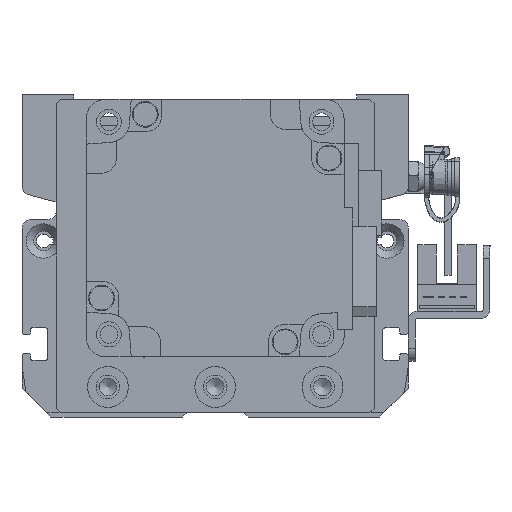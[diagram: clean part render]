
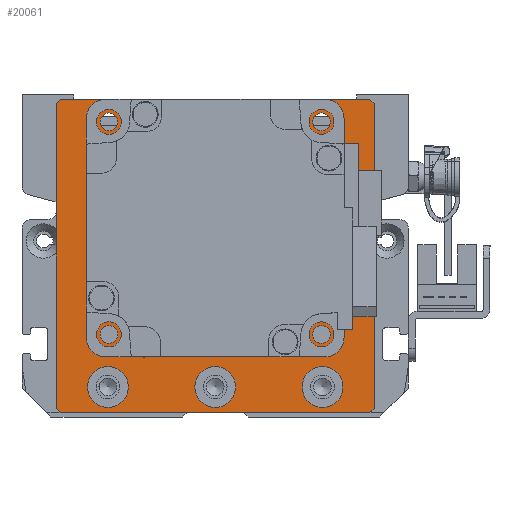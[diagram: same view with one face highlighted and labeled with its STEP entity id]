
A CAD part, left-side view. The second image highlights one B-rep face of the part: STEP entity #20061.
In plain terms, the highlighted planar face has unit normal (-1, 0, 0) as drawn and (0, 0, 1) by its records, which use the part's own axes.
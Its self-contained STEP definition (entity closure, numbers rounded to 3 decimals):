
#648=FACE_BOUND('',#3612,.T.);
#649=FACE_BOUND('',#3613,.T.);
#650=FACE_BOUND('',#3614,.T.);
#651=FACE_BOUND('',#3615,.T.);
#652=FACE_BOUND('',#3616,.T.);
#653=FACE_BOUND('',#3617,.T.);
#654=FACE_BOUND('',#3618,.T.);
#655=FACE_BOUND('',#3619,.T.);
#1053=PLANE('',#22171);
#2356=FACE_OUTER_BOUND('',#3611,.T.);
#3611=EDGE_LOOP('',(#16710,#16711,#16712,#16713,#16714,#16715,#16716,#16717));
#3612=EDGE_LOOP('',(#16718));
#3613=EDGE_LOOP('',(#16719));
#3614=EDGE_LOOP('',(#16720));
#3615=EDGE_LOOP('',(#16721));
#3616=EDGE_LOOP('',(#16722));
#3617=EDGE_LOOP('',(#16723));
#3618=EDGE_LOOP('',(#16724));
#3619=EDGE_LOOP('',(#16725));
#5201=LINE('',#32912,#6920);
#5207=LINE('',#32923,#6926);
#5214=LINE('',#32958,#6933);
#5217=LINE('',#32963,#6936);
#5223=LINE('',#32984,#6942);
#5226=LINE('',#32989,#6945);
#5227=LINE('',#32992,#6946);
#5235=LINE('',#33031,#6954);
#6920=VECTOR('',#26301,10.);
#6926=VECTOR('',#26309,10.);
#6933=VECTOR('',#26340,10.);
#6936=VECTOR('',#26345,10.);
#6942=VECTOR('',#26369,10.);
#6945=VECTOR('',#26374,10.);
#6946=VECTOR('',#26377,10.);
#6954=VECTOR('',#26427,10.);
#8255=CIRCLE('',#22140,4.75);
#8258=CIRCLE('',#22146,4.75);
#8261=CIRCLE('',#22152,4.75);
#8263=CIRCLE('',#22158,2.067);
#8264=CIRCLE('',#22160,2.067);
#8265=CIRCLE('',#22162,2.067);
#8266=CIRCLE('',#22164,2.067);
#8269=CIRCLE('',#22169,25.);
#9750=VERTEX_POINT('',#32910);
#9751=VERTEX_POINT('',#32911);
#9755=VERTEX_POINT('',#32921);
#9771=VERTEX_POINT('',#32957);
#9772=VERTEX_POINT('',#32961);
#9778=VERTEX_POINT('',#32983);
#9779=VERTEX_POINT('',#32987);
#9780=VERTEX_POINT('',#32991);
#9783=VERTEX_POINT('',#33000);
#9786=VERTEX_POINT('',#33011);
#9789=VERTEX_POINT('',#33022);
#9791=VERTEX_POINT('',#33033);
#9792=VERTEX_POINT('',#33037);
#9793=VERTEX_POINT('',#33041);
#9794=VERTEX_POINT('',#33045);
#9797=VERTEX_POINT('',#33054);
#12179=EDGE_CURVE('',#9750,#9751,#5201,.T.);
#12185=EDGE_CURVE('',#9750,#9755,#5207,.T.);
#12202=EDGE_CURVE('',#9771,#9755,#5214,.T.);
#12205=EDGE_CURVE('',#9771,#9772,#5217,.T.);
#12214=EDGE_CURVE('',#9778,#9772,#5223,.T.);
#12217=EDGE_CURVE('',#9778,#9779,#5226,.T.);
#12218=EDGE_CURVE('',#9780,#9779,#5227,.T.);
#12222=EDGE_CURVE('',#9783,#9783,#8255,.T.);
#12227=EDGE_CURVE('',#9786,#9786,#8258,.T.);
#12232=EDGE_CURVE('',#9789,#9789,#8261,.T.);
#12236=EDGE_CURVE('',#9780,#9751,#5235,.T.);
#12237=EDGE_CURVE('',#9791,#9791,#8263,.T.);
#12239=EDGE_CURVE('',#9792,#9792,#8264,.T.);
#12241=EDGE_CURVE('',#9793,#9793,#8265,.T.);
#12243=EDGE_CURVE('',#9794,#9794,#8266,.T.);
#12247=EDGE_CURVE('',#9797,#9797,#8269,.T.);
#16710=ORIENTED_EDGE('',*,*,#12179,.F.);
#16711=ORIENTED_EDGE('',*,*,#12185,.T.);
#16712=ORIENTED_EDGE('',*,*,#12202,.F.);
#16713=ORIENTED_EDGE('',*,*,#12205,.T.);
#16714=ORIENTED_EDGE('',*,*,#12214,.F.);
#16715=ORIENTED_EDGE('',*,*,#12217,.T.);
#16716=ORIENTED_EDGE('',*,*,#12218,.F.);
#16717=ORIENTED_EDGE('',*,*,#12236,.T.);
#16718=ORIENTED_EDGE('',*,*,#12222,.T.);
#16719=ORIENTED_EDGE('',*,*,#12227,.T.);
#16720=ORIENTED_EDGE('',*,*,#12232,.T.);
#16721=ORIENTED_EDGE('',*,*,#12237,.T.);
#16722=ORIENTED_EDGE('',*,*,#12239,.T.);
#16723=ORIENTED_EDGE('',*,*,#12241,.T.);
#16724=ORIENTED_EDGE('',*,*,#12243,.T.);
#16725=ORIENTED_EDGE('',*,*,#12247,.T.);
#20061=ADVANCED_FACE('',(#2356,#648,#649,#650,#651,#652,#653,#654,#655),
#1053,.T.);
#22140=AXIS2_PLACEMENT_3D('',#33001,#26387,#26388);
#22146=AXIS2_PLACEMENT_3D('',#33012,#26401,#26402);
#22152=AXIS2_PLACEMENT_3D('',#33023,#26415,#26416);
#22158=AXIS2_PLACEMENT_3D('',#33034,#26430,#26431);
#22160=AXIS2_PLACEMENT_3D('',#33038,#26435,#26436);
#22162=AXIS2_PLACEMENT_3D('',#33042,#26440,#26441);
#22164=AXIS2_PLACEMENT_3D('',#33046,#26445,#26446);
#22169=AXIS2_PLACEMENT_3D('',#33055,#26456,#26457);
#22171=AXIS2_PLACEMENT_3D('',#33059,#26462,#26463);
#26301=DIRECTION('',(0.707,-0.707,0.));
#26309=DIRECTION('',(-1.,0.,0.));
#26340=DIRECTION('',(0.707,0.707,0.));
#26345=DIRECTION('',(0.,-1.,0.));
#26369=DIRECTION('',(-0.707,0.707,0.));
#26374=DIRECTION('',(1.,0.,0.));
#26377=DIRECTION('',(-0.707,-0.707,0.));
#26387=DIRECTION('center_axis',(0.,0.,-1.));
#26388=DIRECTION('ref_axis',(1.,0.,0.));
#26401=DIRECTION('center_axis',(0.,0.,-1.));
#26402=DIRECTION('ref_axis',(1.,0.,0.));
#26415=DIRECTION('center_axis',(0.,0.,-1.));
#26416=DIRECTION('ref_axis',(1.,0.,0.));
#26427=DIRECTION('',(0.,1.,0.));
#26430=DIRECTION('center_axis',(0.,0.,-1.));
#26431=DIRECTION('ref_axis',(1.,0.,0.));
#26435=DIRECTION('center_axis',(0.,0.,-1.));
#26436=DIRECTION('ref_axis',(1.,0.,0.));
#26440=DIRECTION('center_axis',(0.,0.,-1.));
#26441=DIRECTION('ref_axis',(1.,0.,0.));
#26445=DIRECTION('center_axis',(0.,0.,-1.));
#26446=DIRECTION('ref_axis',(1.,0.,0.));
#26456=DIRECTION('center_axis',(0.,0.,-1.));
#26457=DIRECTION('ref_axis',(1.,0.,0.));
#26462=DIRECTION('center_axis',(0.,0.,1.));
#26463=DIRECTION('ref_axis',(1.,0.,0.));
#32910=CARTESIAN_POINT('',(36.,37.5,59.));
#32911=CARTESIAN_POINT('',(37.,36.5,59.));
#32912=CARTESIAN_POINT('',(36.625,36.875,59.));
#32921=CARTESIAN_POINT('',(-36.,37.5,59.));
#32923=CARTESIAN_POINT('',(37.,37.5,59.));
#32957=CARTESIAN_POINT('',(-37.,36.5,59.));
#32958=CARTESIAN_POINT('',(-36.625,36.875,59.));
#32961=CARTESIAN_POINT('',(-37.,-34.5,59.));
#32963=CARTESIAN_POINT('',(-37.,35.5,59.));
#32983=CARTESIAN_POINT('',(-36.,-35.5,59.));
#32984=CARTESIAN_POINT('',(-36.125,-35.375,59.));
#32987=CARTESIAN_POINT('',(36.,-35.5,59.));
#32989=CARTESIAN_POINT('',(-37.,-35.5,59.));
#32991=CARTESIAN_POINT('',(37.,-34.5,59.));
#32992=CARTESIAN_POINT('',(36.125,-35.375,59.));
#33000=CARTESIAN_POINT('',(-29.75,-29.5,59.));
#33001=CARTESIAN_POINT('Origin',(-25.,-29.5,59.));
#33011=CARTESIAN_POINT('',(-4.75,-29.5,59.));
#33012=CARTESIAN_POINT('Origin',(0.,-29.5,59.));
#33022=CARTESIAN_POINT('',(20.25,-29.5,59.));
#33023=CARTESIAN_POINT('Origin',(25.,-29.5,59.));
#33031=CARTESIAN_POINT('',(37.,-35.5,59.));
#33033=CARTESIAN_POINT('',(-26.816,-17.249,59.));
#33034=CARTESIAN_POINT('Origin',(-24.749,-17.249,59.));
#33037=CARTESIAN_POINT('',(-26.816,32.249,59.));
#33038=CARTESIAN_POINT('Origin',(-24.749,32.249,59.));
#33041=CARTESIAN_POINT('',(22.682,32.249,59.));
#33042=CARTESIAN_POINT('Origin',(24.749,32.249,59.));
#33045=CARTESIAN_POINT('',(22.682,-17.249,59.));
#33046=CARTESIAN_POINT('Origin',(24.749,-17.249,59.));
#33054=CARTESIAN_POINT('',(-25.,7.5,59.));
#33055=CARTESIAN_POINT('Origin',(0.,7.5,59.));
#33059=CARTESIAN_POINT('Origin',(0.,0.,
59.));
